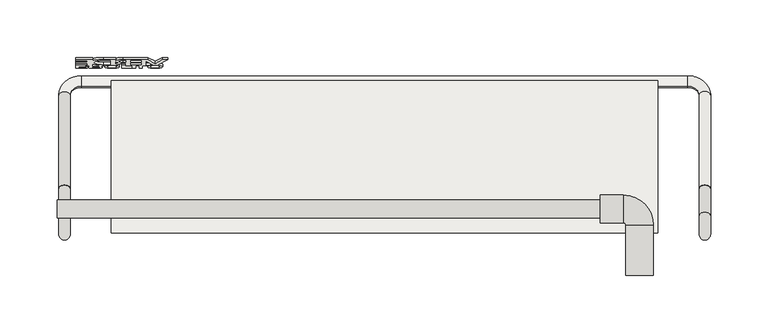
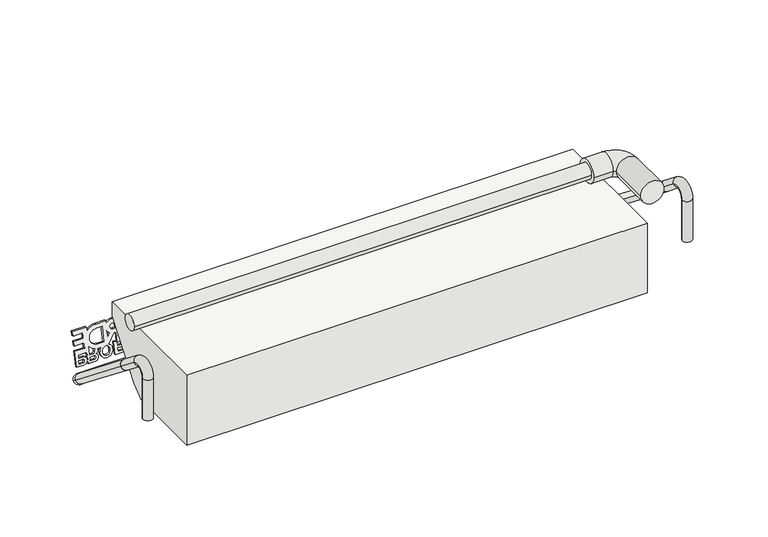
"""IFC4 building model written with IfcOpenShell, lengths in millimetres: covering geometry, panel VP Modulo prova ultima texture : panel VP Modulo prova ultima texture."""

from ifc_helpers import new_model, si_unit, point, frame, frame_2d, origin, place, context, project, spatial, polyline, circle_curve, ellipse_curve, trimmed, segment, composite_curve, outline, extrude, source, transform, mapped, element, save
from ifc_brep_helpers import plane_surface, cylinder_surface, revolved_surface, advanced_brep


def covering_7d83ccac(model_context):
    return source(origin(), model_context, "Body", "SolidModel", [
        extrude(outline(composite_curve([segment(polyline([(34.7220757, 0.0), (58.7996813, 0.0)]), True, "CONTINUOUS"), segment(trimmed(circle_curve(frame_2d((65.064279, 0.602523)), 6.293506), [point((58.7996813, 0.0))], [point((63.4156115, 6.6762462))], False, "CARTESIAN"), True, "CONTINUOUS"), segment(trimmed(circle_curve(frame_2d((65.6666707, 0.6823428)), 6.4026671), [point((63.4156115, 6.6762462))], [point((68.2653756, -5.1692278))], False, "CARTESIAN"), True, "CONTINUOUS"), segment(trimmed(circle_curve(frame_2d((65.2033193, 0.2002614)), 6.1812298), [point((68.2653756, -5.1692278))], [point((64.2093265, -5.9005239))], False, "CARTESIAN"), True, "CONTINUOUS"), segment(polyline([(64.2093265, -5.9005239), (66.3168222, -11.0476865), (75.8016953, -7.1641235), (76.862281, -9.7544046), (66.3136896, -14.073505), (67.4636632, -16.8820993), (78.0122545, -12.5629989), (79.0728401, -15.1532801), (68.5242488, -19.4723804), (70.7348079, -24.8712559), (61.6931831, -28.5733317), (62.6270622, -30.854156), (73.074875, -33.0832316)]), True, "CONTINUOUS"), segment(trimmed(circle_curve(frame_2d((79.2445531, -34.0648779)), 6.247284), [point((73.074875, -33.0832316))], [point((77.6263487, -28.0308102))], False, "CARTESIAN"), True, "CONTINUOUS"), segment(trimmed(circle_curve(frame_2d((79.8774079, -34.0247137)), 6.4026671), [point((77.6263487, -28.0308102))], [point((82.4790997, -39.8749568))], False, "CARTESIAN"), True, "CONTINUOUS"), segment(trimmed(circle_curve(frame_2d((79.4067187, -34.4842118)), 6.2048092), [point((82.4790997, -39.8749568))], [point((77.0112197, -40.2079555))], False, "CARTESIAN"), True, "CONTINUOUS"), segment(polyline([(77.0112197, -40.2079555), (78.1993614, -43.1097685)]), True, "CONTINUOUS"), segment(trimmed(circle_curve(frame_2d((66.5130173, -47.6019204)), 12.5199867), [point((78.1993614, -43.1097685))], [point((78.4709527, -43.8927629))], False, "CARTESIAN"), True, "CONTINUOUS"), segment(polyline([(78.4709527, -43.8927629), (79.5384705, -43.4513168)]), True, "CONTINUOUS"), segment(trimmed(circle_curve(frame_2d((81.1236564, -46.5289179)), 3.4618554), [point((79.5384705, -43.4513168))], [point((83.2640667, -43.8080567))], False, "CARTESIAN"), True, "CONTINUOUS"), segment(trimmed(circle_curve(frame_2d((86.9930545, -44.5041076)), 3.7933939), [point((83.2640667, -43.8080567))], [point((90.5427254, -43.1663205))], False, "CARTESIAN"), True, "CONTINUOUS"), segment(polyline([(90.5427254, -43.1663205), (93.2835774, -49.8603365), (82.734986, -54.1794369), (86.0955187, -62.3869066), (89.2825225, -61.0819941), (87.602256, -56.9782588)]), True, "CONTINUOUS"), segment(trimmed(circle_curve(frame_2d((91.2496311, -55.4763574)), 3.9444966), [point((87.602256, -56.9782588))], [point((87.6394876, -53.8870441))], False, "CARTESIAN"), True, "CONTINUOUS"), segment(trimmed(circle_curve(frame_2d((91.0795377, -55.4029609)), 3.7592483), [point((87.6394876, -53.8870441))], [point((89.8068056, -51.865716))], False, "CARTESIAN"), True, "CONTINUOUS"), segment(trimmed(circle_curve(frame_2d((91.3826275, -55.3791794)), 3.8506675), [point((89.8068056, -51.865716))], [point((94.9638437, -53.9640714))], False, "CARTESIAN"), True, "CONTINUOUS"), segment(polyline([(94.9638437, -53.9640714), (97.7046956, -60.6580874), (83.1186526, -66.6303146), (79.3291227, -57.3750995), (74.3249247, -59.4240587), (78.1144546, -68.6792738), (74.0770029, -70.3324006), (70.287473, -61.0771855), (65.283275, -63.1261447), (69.0728049, -72.3813598), (65.0353532, -74.0344866), (59.5536494, -60.6464546), (63.573194, -59.0006598)]), True, "CONTINUOUS"), segment(trimmed(circle_curve(frame_2d((67.4307017, -47.2531671)), 12.364625), [point((63.573194, -59.0006598))], [point((55.9786181, -51.9151122))], False, "CARTESIAN"), True, "CONTINUOUS"), segment(polyline([(55.9786181, -51.9151122), (51.9745895, -42.1360245), (54.8949193, -40.940301)]), True, "CONTINUOUS"), segment(trimmed(circle_curve(frame_2d((56.8950263, -33.2916254)), 7.9058629), [point((54.8949193, -40.940301))], [point((49.6285765, -36.4063284))], False, "CARTESIAN"), True, "CONTINUOUS"), segment(polyline([(49.6285765, -36.4063284), (41.306864, -16.0821088), (53.1289126, -4.4511801), (36.5446028, -4.4511801), (34.7220757, 0.0)]), True, "CONTINUOUS")], self_intersect=False), holes=[composite_curve([segment(polyline([(91.3698144, -60.2273564), (94.5568181, -58.9224439), (93.0429627, -55.2251363)]), True, "CONTINUOUS"), segment(trimmed(circle_curve(frame_2d((91.4494607, -55.8775926)), 1.7219023), [point((93.0429627, -55.2251363))], [point((89.8559589, -56.5300488))], True, "CARTESIAN"), True, "CONTINUOUS"), segment(polyline([(89.8559589, -56.5300488), (91.3698144, -60.2273564)]), True, "CONTINUOUS")], self_intersect=False), composite_curve([segment(polyline([(77.6536646, -53.2354383), (84.8614042, -50.2842432), (83.4804082, -46.9114199)]), True, "CONTINUOUS"), segment(trimmed(circle_curve(frame_2d((82.0055188, -47.9798171)), 1.8212006), [point((83.4804082, -46.9114199))], [point((81.4459172, -46.2467223))], True, "CARTESIAN"), True, "CONTINUOUS"), segment(polyline([(81.4459172, -46.2467223), (79.005401, -46.7813864)]), True, "CONTINUOUS"), segment(trimmed(circle_curve(frame_2d((66.800009, -47.5936694)), 12.2323913), [point((79.005401, -46.7813864))], [point((77.6536646, -53.2354383))], False, "CARTESIAN"), True, "CONTINUOUS")], self_intersect=False), composite_curve([segment(polyline([(80.0469884, -37.8463889), (81.818283, -37.1211357)]), True, "CONTINUOUS"), segment(trimmed(circle_curve(frame_2d((80.3714598, -33.8224141)), 3.6020635), [point((81.818283, -37.1211357))], [point((79.0874462, -30.4569765))], True, "CARTESIAN"), True, "CONTINUOUS"), segment(polyline([(79.0874462, -30.4569765), (77.318043, -31.1814552)]), True, "CONTINUOUS"), segment(trimmed(circle_curve(frame_2d((78.7640582, -34.4805346)), 3.6020668), [point((77.318043, -31.1814552))], [point((80.0469884, -37.8463889))], True, "CARTESIAN"), True, "CONTINUOUS")], self_intersect=False), composite_curve([segment(polyline([(64.8767089, 4.25008), (63.1073057, 3.5256013)]), True, "CONTINUOUS"), segment(trimmed(circle_curve(frame_2d((64.5533209, 0.2265218)), 3.6020668), [point((63.1073057, 3.5256013))], [point((65.8362511, -3.1393325))], True, "CARTESIAN"), True, "CONTINUOUS"), segment(polyline([(65.8362511, -3.1393325), (67.6075457, -2.4140793)]), True, "CONTINUOUS"), segment(trimmed(circle_curve(frame_2d((66.1607227, 0.8846423)), 3.6020635), [point((67.6075457, -2.4140793))], [point((64.8767089, 4.25008))], True, "CARTESIAN"), True, "CONTINUOUS")], self_intersect=False), composite_curve([segment(polyline([(49.3862172, -14.3776132), (62.966359, -8.8172503), (61.7031824, -5.7321785), (62.543491, -5.3881158)]), True, "CONTINUOUS"), segment(trimmed(circle_curve(frame_2d((65.2914897, 0.489271)), 6.4880792), [point((62.543491, -5.3881158))], [point((60.2929854, -3.647168))], False, "CARTESIAN"), True, "CONTINUOUS"), segment(polyline([(60.2929854, -3.647168), (49.3862172, -14.3776132)]), True, "CONTINUOUS")], self_intersect=False), polyline([(47.5988019, -19.9351412), (50.9593346, -28.1426109), (55.9635327, -26.0936517), (52.603, -17.8861819), (47.5988019, -19.9351412)]), polyline([(60.0009843, -24.4405249), (65.0051824, -22.3915657), (61.6446497, -14.1840959), (56.6404516, -16.2330552), (60.0009843, -24.4405249)]), composite_curve([segment(polyline([(52.6514049, -32.2754703), (53.692025, -34.8169896)]), True, "CONTINUOUS"), segment(trimmed(circle_curve(frame_2d((56.226554, -33.8697215)), 2.7057631), [point((53.692025, -34.8169896))], [point((58.6823171, -32.7337722))], True, "CARTESIAN"), True, "CONTINUOUS"), segment(polyline([(58.6823171, -32.7337722), (57.6557065, -30.2264687), (52.6514049, -32.2754703)]), True, "CONTINUOUS")], self_intersect=False), composite_curve([segment(polyline([(62.0018449, -38.0303841), (66.4600603, -36.2049764), (63.0935891, -35.4866797)]), True, "CONTINUOUS"), segment(trimmed(circle_curve(frame_2d((53.8245829, -33.01461)), 9.5929977), [point((63.0935891, -35.4866797))], [point((62.0018449, -38.0303841))], False, "CARTESIAN"), True, "CONTINUOUS")], self_intersect=False), composite_curve([segment(polyline([(57.7042151, -44.6157146), (60.0160697, -50.2619853)]), True, "CONTINUOUS"), segment(trimmed(circle_curve(frame_2d((67.1061304, -47.5504315)), 7.5908816), [point((60.0160697, -50.2619853))], [point((74.0619175, -44.5109401))], True, "CARTESIAN"), True, "CONTINUOUS"), segment(polyline([(74.0619175, -44.5109401), (71.7500629, -38.8646693), (57.7042151, -44.6157146)]), True, "CONTINUOUS")], self_intersect=False), composite_curve([segment(polyline([(86.9486961, -49.4296056), (90.1356999, -48.124693), (88.6218444, -44.4273854)]), True, "CONTINUOUS"), segment(trimmed(circle_curve(frame_2d((87.0283425, -45.0798417)), 1.7219023), [point((88.6218444, -44.4273854))], [point((85.4348406, -45.7322979))], True, "CARTESIAN"), True, "CONTINUOUS"), segment(polyline([(85.4348406, -45.7322979), (86.9486961, -49.4296056)]), True, "CONTINUOUS")], self_intersect=False)]), frame((-175.3240629, 210.3688908, 352.3284791), z_axis=(0.0, -0.9769248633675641, 0.21358326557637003), x_axis=(-0.3789159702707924, -0.19765659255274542, -0.9040766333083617)), (0.0, 0.0, 1.0), 2.0),
        extrude(outline(polyline([(76.2116946, -23.2064962), (79.3986984, -21.9015837), (77.1881392, -16.5027082), (79.2754311, -15.6480706), (82.5465758, -23.6372272), (70.9744162, -28.3754256), (69.9138306, -25.7851445), (74.1244027, -24.0611338), (71.9138436, -18.6622584), (74.0011355, -17.8076208), (76.2116946, -23.2064962)])), frame((-175.3240629, 210.3688908, 352.3284791), z_axis=(0.0, -0.9769248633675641, 0.21358326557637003), x_axis=(-0.3789159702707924, -0.19765659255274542, -0.9040766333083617)), (0.0, 0.0, 1.0), 2.0),
        advanced_brep(
        [(-284.4808119, 63.5015434, 416.038463), (-284.4808119, 79.5015434, 416.038463), (187.7808119, 63.5015434, 416.038463), (187.7808119, 79.5015434, 416.038463), (187.7808119, 59.5015434, 416.038463), (187.7808119, 83.5015434, 416.038463), (207.7808119, 59.5015434, 416.038463), (207.7808119, 83.5015434, 416.038463), (209.7808119, 57.5015434, 416.038463), (233.7808119, 57.5015434, 416.038463), (209.7808119, 13.5015434, 416.038463), (233.7808119, 13.5015434, 416.038463)],
        [
            (0, 1, circle_curve(frame((-284.4808119, 71.5015434, 416.038463), z_axis=(-1.0, 0.0, 0.0), x_axis=(0.0, 1.0, 0.0)), 8.0)),
            (1, 0, circle_curve(frame((-284.4808119, 71.5015434, 416.038463), z_axis=(-1.0, 0.0, 0.0), x_axis=(0.0, 1.0, 0.0)), 8.0)),
            (0, 2),
            (2, 3, circle_curve(frame((187.7808119, 71.5015434, 416.038463), z_axis=(-1.0, 0.0, 0.0), x_axis=(0.0, 1.0, 0.0)), 8.0)),
            (3, 1),
            (3, 2, circle_curve(frame((187.7808119, 71.5015434, 416.038463), z_axis=(-1.0, 0.0, 0.0), x_axis=(0.0, 1.0, 0.0)), 8.0)),
            (4, 5, circle_curve(frame((187.7808119, 71.5015434, 416.038463), z_axis=(-1.0, 0.0, 0.0), x_axis=(0.0, 1.0, 0.0)), 12.0)),
            (5, 4, circle_curve(frame((187.7808119, 71.5015434, 416.038463), z_axis=(-1.0, 0.0, 0.0), x_axis=(0.0, 1.0, 0.0)), 12.0)),
            (4, 6),
            (6, 7, circle_curve(frame((207.7808119, 71.5015434, 416.038463), z_axis=(-1.0, 0.0, 0.0), x_axis=(0.0, 1.0, 0.0)), 12.0)),
            (7, 5),
            (7, 6, circle_curve(frame((207.7808119, 71.5015434, 416.038463), z_axis=(-1.0, 0.0, 0.0), x_axis=(0.0, 1.0, 0.0)), 12.0)),
            (6, 8, circle_curve(frame((207.7808119, 57.5015434, 416.038463), z_axis=(0.0, 0.0, -1.0), x_axis=(0.0, 1.0, 0.0)), 2.0)),
            (8, 9, circle_curve(frame((221.7808119, 57.5015434, 416.038463), z_axis=(0.0, 1.0, 0.0), x_axis=(1.0, 0.0, 0.0)), 12.0)),
            (9, 7, circle_curve(frame((207.7808119, 57.5015434, 416.038463), z_axis=(0.0, 0.0, 1.0), x_axis=(0.0, 1.0, 0.0)), 26.0)),
            (9, 8, circle_curve(frame((221.7808119, 57.5015434, 416.038463), z_axis=(0.0, 1.0, 0.0), x_axis=(1.0, 0.0, 0.0)), 12.0)),
            (10, 11, circle_curve(frame((221.7808119, 13.5015434, 416.038463), z_axis=(0.0, -1.0, 0.0), x_axis=(1.0, 0.0, 0.0)), 12.0)),
            (11, 10, circle_curve(frame((221.7808119, 13.5015434, 416.038463), z_axis=(0.0, -1.0, 0.0), x_axis=(1.0, 0.0, 0.0)), 12.0)),
            (8, 10),
            (11, 9),
        ],
        [
            plane_surface(frame((-284.4808119, 63.5015434, 416.038463), z_axis=(-1.0, 0.0, 0.0), x_axis=(0.0, 0.0, 1.0))),
            cylinder_surface(frame((-284.4808119, 71.5015434, 416.038463), z_axis=(-1.0, 0.0, 0.0), x_axis=(0.0, 1.0, 0.0)), 8.0),
            plane_surface(frame((187.7808119, 63.5015434, 416.038463), z_axis=(-1.0, 0.0, 0.0), x_axis=(0.0, 0.0, 1.0))),
            cylinder_surface(frame((187.7808119, 71.5015434, 416.038463), z_axis=(-1.0, 0.0, 0.0), x_axis=(0.0, 1.0, 0.0)), 12.0),
            revolved_surface(trimmed(ellipse_curve(frame((207.7808119, 71.5015434, 416.038463), z_axis=(-1.0, 0.0, 0.0), x_axis=(0.0, 1.0, 0.0)), 12.0, 12.0), [point((207.7808119, 59.5015434, 416.038463))], [point((207.7808119, 83.5015434, 416.038463))], True, "CARTESIAN"), (207.7808119, 57.5015434, 416.038463), (0.0, 0.0, -1.0)),
            revolved_surface(trimmed(ellipse_curve(frame((207.7808119, 71.5015434, 416.038463), z_axis=(-1.0, 0.0, 0.0), x_axis=(0.0, 1.0, 0.0)), 12.0, 12.0), [point((207.7808119, 83.5015434, 416.038463))], [point((207.7808119, 59.5015434, 416.038463))], True, "CARTESIAN"), (207.7808119, 57.5015434, 416.038463), (0.0, 0.0, -1.0)),
            plane_surface(frame((213.7808119, 13.5015434, 416.038463), z_axis=(0.0, -1.0, 0.0), x_axis=(0.0, 0.0, 1.0))),
            cylinder_surface(frame((221.7808119, 57.5015434, 416.038463), z_axis=(0.0, 1.0, 0.0), x_axis=(1.0, 0.0, 0.0)), 12.0),
        ],
        [
            (0, [[1, 2]]),
            (1, [[-1, 3, 4, 5]]),
            (1, [[-2, -5, 6, -3]]),
            (2, [[7, 8], [-4, -6]]),
            (3, [[-7, 9, 10, 11]]),
            (3, [[-8, -11, 12, -9]]),
            (4, [[-10, 13, 14, 15]]),
            (5, [[-12, -15, 16, -13]]),
            (6, [[17, 18]]),
            (7, [[-14, 19, -18, 20]]),
            (7, [[-16, -20, -17, -19]]),
        ],
    ),
        advanced_brep(
        [(283.4808119, 89.2250572, 356.8404048), (273.4808119, 89.2251428, 356.8405128), (283.4808119, 170.6491384, 292.3205598), (273.4808119, 170.6492239, 292.3206678), (263.4808119, 178.4869122, 286.1101411), (263.4808119, 186.324515, 279.8995064), (-263.4808119, 186.324515, 279.8995064), (-263.4808119, 178.4869122, 286.1101411), (-273.4808119, 170.6492239, 292.3206678), (-283.4808119, 170.6491384, 292.3205598), (-283.4808119, 89.2250494, 356.840411), (-273.4808119, 89.225135, 356.840519)],
        [
            (0, 1, circle_curve(frame((278.4808119, 89.2250572, 356.8404048), z_axis=(0.0, -0.7837688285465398, 0.6210526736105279), x_axis=(1.0, 0.0, 0.0)), 5.0)),
            (1, 0, circle_curve(frame((278.4808119, 89.2250572, 356.8404048), z_axis=(0.0, -0.7837688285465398, 0.6210526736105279), x_axis=(1.0, 0.0, 0.0)), 5.0)),
            (0, 2),
            (2, 3, circle_curve(frame((278.4808119, 170.6491384, 292.3205598), z_axis=(0.0, -0.7837688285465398, 0.6210526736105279), x_axis=(1.0, 0.0, 0.0)), 5.0)),
            (3, 1),
            (3, 2, circle_curve(frame((278.4808119, 170.6491384, 292.3205598), z_axis=(0.0, -0.7837688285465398, 0.6210526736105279), x_axis=(1.0, 0.0, 0.0)), 5.0)),
            (4, 3, circle_curve(frame((263.4808119, 170.6492239, 292.3206678), z_axis=(0.0, -0.6210526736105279, -0.7837688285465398), x_axis=(1.0, 0.0, 0.0)), 10.0)),
            (2, 5, circle_curve(frame((263.4808119, 170.6491384, 292.3205598), z_axis=(0.0, 0.6210526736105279, 0.7837688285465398), x_axis=(1.0, 0.0, 0.0)), 20.0)),
            (5, 4, circle_curve(frame((263.4808119, 182.4056708, 283.0047697), z_axis=(1.0, 0.0, 0.0), x_axis=(0.0, 0.7837688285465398, -0.6210526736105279)), 5.0)),
            (4, 5, circle_curve(frame((263.4808119, 182.4056708, 283.0047697), z_axis=(1.0, 0.0, 0.0), x_axis=(0.0, 0.7837688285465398, -0.6210526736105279)), 5.0)),
            (5, 6),
            (6, 7, circle_curve(frame((-263.4808119, 182.4056708, 283.0047697), z_axis=(1.0, 0.0, 0.0), x_axis=(0.0, 0.7837688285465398, -0.6210526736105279)), 5.0)),
            (7, 4),
            (7, 6, circle_curve(frame((-263.4808119, 182.4056708, 283.0047697), z_axis=(1.0, 0.0, 0.0), x_axis=(0.0, 0.7837688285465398, -0.6210526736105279)), 5.0)),
            (8, 7, circle_curve(frame((-263.4808119, 170.6492239, 292.3206678), z_axis=(0.0, -0.6210526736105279, -0.7837688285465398), x_axis=(0.0, 0.7837688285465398, -0.6210526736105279)), 10.0)),
            (6, 9, circle_curve(frame((-263.4808119, 170.6491384, 292.3205598), z_axis=(0.0, 0.6210526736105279, 0.7837688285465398), x_axis=(0.0, 0.7837688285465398, -0.6210526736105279)), 20.0)),
            (9, 8, circle_curve(frame((-278.4808119, 170.6491384, 292.3205598), z_axis=(0.0, 0.7837688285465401, -0.6210526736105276), x_axis=(-1.0000000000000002, 0.0, 0.0)), 5.0)),
            (8, 9, circle_curve(frame((-278.4808119, 170.6491384, 292.3205598), z_axis=(0.0, 0.7837688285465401, -0.6210526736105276), x_axis=(-1.0000000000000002, 0.0, 0.0)), 5.0)),
            (10, 11, circle_curve(frame((-278.4808119, 89.2250494, 356.840411), z_axis=(0.0, -0.7837688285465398, 0.6210526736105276), x_axis=(-1.0, 0.0, 0.0)), 5.0)),
            (11, 10, circle_curve(frame((-278.4808119, 89.2250494, 356.840411), z_axis=(0.0, -0.7837688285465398, 0.6210526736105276), x_axis=(-1.0, 0.0, 0.0)), 5.0)),
            (9, 10),
            (11, 8),
        ],
        [
            plane_surface(frame((273.4808119, 92.3304015, 360.7593511), z_axis=(0.0, -0.7837688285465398, 0.6210526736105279), x_axis=(0.0, -0.6210526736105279, -0.7837688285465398))),
            cylinder_surface(frame((278.4808119, 89.2250572, 356.8404048), z_axis=(0.0, -0.7837688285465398, 0.6210526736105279), x_axis=(1.0, 0.0, 0.0)), 5.0),
            revolved_surface(trimmed(ellipse_curve(frame((278.4808119, 170.6491384, 292.3205598), z_axis=(0.0, -0.7837688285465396, 0.6210526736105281), x_axis=(1.0, 0.0, 0.0)), 5.0, 5.0), [point((283.4808119, 170.6491384, 292.3205598))], [point((273.4808119, 170.6492239, 292.3206678))], True, "CARTESIAN"), (263.4808119, 173.7544827, 296.2395061), (0.0, 0.6210526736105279, 0.7837688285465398)),
            revolved_surface(trimmed(ellipse_curve(frame((278.4808119, 170.6491384, 292.3205598), z_axis=(0.0, -0.7837688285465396, 0.6210526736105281), x_axis=(1.0, 0.0, 0.0)), 5.0, 5.0), [point((273.4808119, 170.6492239, 292.3206678))], [point((283.4808119, 170.6491384, 292.3205598))], True, "CARTESIAN"), (263.4808119, 173.7544827, 296.2395061), (0.0, 0.6210526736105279, 0.7837688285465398)),
            cylinder_surface(frame((263.4808119, 182.4056708, 283.0047697), z_axis=(1.0000000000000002, 0.0, 0.0), x_axis=(0.0, 0.7837688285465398, -0.6210526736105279)), 5.0),
            revolved_surface(trimmed(ellipse_curve(frame((-263.4808119, 182.4056708, 283.0047697), z_axis=(1.0000000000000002, 0.0, 0.0), x_axis=(0.0, 0.7837688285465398, -0.6210526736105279)), 5.0, 5.0), [point((-263.4808119, 186.324515, 279.8995064))], [point((-263.4808119, 178.4869122, 286.1101411))], True, "CARTESIAN"), (-263.4808119, 173.7544827, 296.2395061), (0.0, 0.6210526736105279, 0.7837688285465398)),
            revolved_surface(trimmed(ellipse_curve(frame((-263.4808119, 182.4056708, 283.0047697), z_axis=(1.0000000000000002, 0.0, 0.0), x_axis=(0.0, 0.7837688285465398, -0.6210526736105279)), 5.0, 5.0), [point((-263.4808119, 178.4869122, 286.1101411))], [point((-263.4808119, 186.324515, 279.8995064))], True, "CARTESIAN"), (-263.4808119, 173.7544827, 296.2395061), (0.0, 0.6210526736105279, 0.7837688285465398)),
            plane_surface(frame((-273.4808119, 92.3303937, 360.7593573), z_axis=(0.0, -0.7837688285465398, 0.6210526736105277), x_axis=(0.0, -0.6210526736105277, -0.7837688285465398))),
            cylinder_surface(frame((-278.4808119, 170.6491384, 292.3205598), z_axis=(0.0, 0.7837688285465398, -0.6210526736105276), x_axis=(-1.0, 0.0, 0.0)), 5.0),
        ],
        [
            (0, [[1, 2]]),
            (1, [[-1, 3, 4, 5]]),
            (1, [[-2, -5, 6, -3]]),
            (2, [[7, -4, 8, 9]]),
            (3, [[-8, -6, -7, 10]]),
            (4, [[-9, 11, 12, 13]]),
            (4, [[-10, -13, 14, -11]]),
            (5, [[15, -12, 16, 17]]),
            (6, [[-16, -14, -15, 18]]),
            (7, [[19, 20]]),
            (8, [[-17, 21, -20, 22]]),
            (8, [[-18, -22, -19, -21]]),
        ],
    ),
        advanced_brep(
        [(-273.4808119, 89.225135, 356.840519), (-283.4808119, 89.225135, 356.840519), (-283.4808119, 65.7120701, 375.4720992), (-273.4808119, 65.7120701, 375.4720992), (-273.4808119, 49.5015434, 367.6344109), (-283.4808119, 49.5015434, 367.6344109), (-273.4808119, 49.5015434, 323.3322656), (-283.4808119, 49.5015434, 323.3322656)],
        [
            (0, 1, circle_curve(frame((-278.4808119, 89.225135, 356.840519), z_axis=(0.0, 0.7837688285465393, -0.6210526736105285), x_axis=(-1.0, 0.0, 0.0)), 5.0)),
            (1, 0, circle_curve(frame((-278.4808119, 89.225135, 356.840519), z_axis=(0.0, 0.7837688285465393, -0.6210526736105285), x_axis=(-1.0, 0.0, 0.0)), 5.0)),
            (1, 2),
            (2, 3, circle_curve(frame((-278.4808119, 65.7120701, 375.4720992), z_axis=(0.0, 0.7837688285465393, -0.6210526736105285), x_axis=(-1.0, 0.0, 0.0)), 5.0)),
            (3, 0),
            (3, 2, circle_curve(frame((-278.4808119, 65.7120701, 375.4720992), z_axis=(0.0, 0.7837688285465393, -0.6210526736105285), x_axis=(-1.0, 0.0, 0.0)), 5.0)),
            (4, 3, circle_curve(frame((-273.4808119, 59.5015434, 367.6344109), z_axis=(-1.0, 0.0, 0.0), x_axis=(0.0, 0.6210526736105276, 0.78376882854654)), 10.0)),
            (2, 5, circle_curve(frame((-283.4808119, 59.5015434, 367.6344109), z_axis=(1.0, 0.0, 0.0), x_axis=(0.0, 0.6210526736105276, 0.78376882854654)), 10.0)),
            (5, 4, circle_curve(frame((-278.4808119, 49.5015434, 367.6344109), z_axis=(0.0, 0.0, 1.0), x_axis=(-1.0, 0.0, 0.0)), 5.0)),
            (4, 5, circle_curve(frame((-278.4808119, 49.5015434, 367.6344109), z_axis=(0.0, 0.0, 1.0), x_axis=(-1.0, 0.0, 0.0)), 5.0)),
            (6, 7, circle_curve(frame((-278.4808119, 49.5015434, 323.3322656), z_axis=(0.0, 0.0, -1.0), x_axis=(-1.0, 0.0, 0.0)), 5.0)),
            (7, 6, circle_curve(frame((-278.4808119, 49.5015434, 323.3322656), z_axis=(0.0, 0.0, -1.0), x_axis=(-1.0, 0.0, 0.0)), 5.0)),
            (5, 7),
            (6, 4),
        ],
        [
            plane_surface(frame((-273.4808119, 89.225135, 356.840519), z_axis=(0.0, 0.7837688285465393, -0.6210526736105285), x_axis=(-1.0, 0.0, 0.0))),
            cylinder_surface(frame((-278.4808119, 89.225135, 356.840519), z_axis=(0.0, 0.7837688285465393, -0.6210526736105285), x_axis=(-1.0, 0.0, 0.0)), 5.0),
            revolved_surface(trimmed(ellipse_curve(frame((-278.4808119, 65.7120701, 375.4720992), z_axis=(0.0, 0.78376882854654, -0.6210526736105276), x_axis=(-1.0, 0.0, 0.0)), 5.0, 5.0), [point((-283.4808119, 65.7120701, 375.4720992))], [point((-273.4808119, 65.7120701, 375.4720992))], True, "CARTESIAN"), (-273.4808119, 59.5015434, 367.6344109), (1.0, 0.0, 0.0)),
            revolved_surface(trimmed(ellipse_curve(frame((-278.4808119, 65.7120701, 375.4720992), z_axis=(0.0, 0.78376882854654, -0.6210526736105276), x_axis=(-1.0, 0.0, 0.0)), 5.0, 5.0), [point((-273.4808119, 65.7120701, 375.4720992))], [point((-283.4808119, 65.7120701, 375.4720992))], True, "CARTESIAN"), (-273.4808119, 59.5015434, 367.6344109), (1.0, 0.0, 0.0)),
            plane_surface(frame((-273.4808119, 49.5015434, 323.3322656), z_axis=(0.0, 0.0, -1.0), x_axis=(-1.0, 0.0, 0.0))),
            cylinder_surface(frame((-278.4808119, 49.5015434, 367.6344109), z_axis=(0.0, 0.0, 1.0), x_axis=(-1.0, 0.0, 0.0)), 5.0),
        ],
        [
            (0, [[1, 2]]),
            (1, [[-2, 3, 4, 5]]),
            (1, [[-1, -5, 6, -3]]),
            (2, [[7, -4, 8, 9]]),
            (3, [[-8, -6, -7, 10]]),
            (4, [[11, 12]]),
            (5, [[-9, 13, -11, 14]]),
            (5, [[-10, -14, -12, -13]]),
        ],
    ),
        advanced_brep(
        [(273.4808119, 89.2251242, 356.8404893), (283.4808119, 89.2251242, 356.8404893), (273.4808119, 65.7120779, 375.472093), (283.4808119, 65.7120779, 375.472093), (283.4808119, 49.5015434, 367.6344109), (273.4808119, 49.5015434, 367.6344109), (273.4808119, 49.5015434, 323.3322656), (283.4808119, 49.5015434, 323.3322656)],
        [
            (0, 1, circle_curve(frame((278.4808119, 89.2251242, 356.8404893), z_axis=(0.0, 0.7837682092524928, -0.621053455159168), x_axis=(1.0, 0.0, 0.0)), 5.0)),
            (1, 0, circle_curve(frame((278.4808119, 89.2251242, 356.8404893), z_axis=(0.0, 0.7837682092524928, -0.621053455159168), x_axis=(1.0, 0.0, 0.0)), 5.0)),
            (0, 2),
            (2, 3, circle_curve(frame((278.4808119, 65.7120779, 375.472093), z_axis=(0.0, 0.7837682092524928, -0.621053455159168), x_axis=(1.0, 0.0, 0.0)), 5.0)),
            (3, 1),
            (3, 2, circle_curve(frame((278.4808119, 65.7120779, 375.472093), z_axis=(0.0, 0.7837682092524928, -0.621053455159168), x_axis=(1.0, 0.0, 0.0)), 5.0)),
            (4, 3, circle_curve(frame((283.4808119, 59.5015434, 367.6344109), z_axis=(-1.0, 0.0, 0.0), x_axis=(0.0, 0.6210534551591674, 0.7837682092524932)), 10.0)),
            (2, 5, circle_curve(frame((273.4808119, 59.5015434, 367.6344109), z_axis=(1.0, 0.0, 0.0), x_axis=(0.0, 0.6210534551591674, 0.7837682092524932)), 10.0)),
            (5, 4, circle_curve(frame((278.4808119, 49.5015434, 367.6344109), z_axis=(0.0, 0.0, 1.0), x_axis=(1.0, 0.0, 0.0)), 5.0)),
            (4, 5, circle_curve(frame((278.4808119, 49.5015434, 367.6344109), z_axis=(0.0, 0.0, 1.0), x_axis=(1.0, 0.0, 0.0)), 5.0)),
            (6, 7, circle_curve(frame((278.4808119, 49.5015434, 323.3322656), z_axis=(0.0, 0.0, -1.0), x_axis=(1.0, 0.0, 0.0)), 5.0)),
            (7, 6, circle_curve(frame((278.4808119, 49.5015434, 323.3322656), z_axis=(0.0, 0.0, -1.0), x_axis=(1.0, 0.0, 0.0)), 5.0)),
            (5, 6),
            (7, 4),
        ],
        [
            plane_surface(frame((273.4808119, 89.2251242, 356.8404893), z_axis=(0.0, 0.7837682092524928, -0.621053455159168), x_axis=(1.0, 0.0, 0.0))),
            cylinder_surface(frame((278.4808119, 89.2251242, 356.8404893), z_axis=(0.0, 0.7837682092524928, -0.621053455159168), x_axis=(1.0, 0.0, 0.0)), 5.0),
            revolved_surface(trimmed(ellipse_curve(frame((278.4808119, 65.7120779, 375.472093), z_axis=(0.0, 0.7837682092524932, -0.6210534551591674), x_axis=(1.0, 0.0, 0.0)), 5.0, 5.0), [point((273.4808119, 65.7120779, 375.472093))], [point((283.4808119, 65.7120779, 375.472093))], True, "CARTESIAN"), (273.4808119, 59.5015434, 367.6344109), (1.0, 0.0, 0.0)),
            revolved_surface(trimmed(ellipse_curve(frame((278.4808119, 65.7120779, 375.472093), z_axis=(0.0, 0.7837682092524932, -0.6210534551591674), x_axis=(1.0, 0.0, 0.0)), 5.0, 5.0), [point((283.4808119, 65.7120779, 375.472093))], [point((273.4808119, 65.7120779, 375.472093))], True, "CARTESIAN"), (273.4808119, 59.5015434, 367.6344109), (1.0, 0.0, 0.0)),
            plane_surface(frame((273.4808119, 49.5015434, 323.3322656), z_axis=(0.0, 0.0, -1.0), x_axis=(1.0, 0.0, 0.0))),
            cylinder_surface(frame((278.4808119, 49.5015434, 367.6344109), z_axis=(0.0, 0.0, 1.0), x_axis=(1.0, 0.0, 0.0)), 5.0),
        ],
        [
            (0, [[1, 2]]),
            (1, [[-1, 3, 4, 5]]),
            (1, [[-2, -5, 6, -3]]),
            (2, [[7, -4, 8, 9]]),
            (3, [[-8, -6, -7, 10]]),
            (4, [[11, 12]]),
            (5, [[-9, 13, -12, 14]]),
            (5, [[-10, -14, -11, -13]]),
        ],
    ),
        extrude(outline(polyline([(132.1625373, 278.3787994), (50.5015434, 278.3787994), (50.5015434, 354.3787994), (183.4941844, 354.3787994), (183.4941844, 338.7120762), (143.8388149, 288.666981), (132.1625373, 278.3787994)])), frame((-237.7808119, 0.0, 0.0), z_axis=(1.0, 0.0, 0.0), x_axis=(0.0, 1.0, 0.0)), (0.0, 0.0, 1.0), 475.5616238),
    ])


if __name__ == "__main__":
    model = new_model("IFC4")
    model_context = context("Model", 3, world=origin())
    ifc_project = project(units=[si_unit("LENGTHUNIT", "METRE", prefix="MILLI")], contexts=[model_context])
    site = spatial("IfcSite", under=ifc_project)
    building = spatial("IfcBuilding", under=site)
    placement = place(None, origin())
    covering_shape = covering_7d83ccac(model_context)
    element("IfcCovering", 1, ObjectType="panel VP Modulo prova ultima texture : panel VP Modulo prova ultima texture", at=placement, inside=building, context=model_context, shape_type="MappedRepresentation", body=[
        mapped(covering_shape, transform((0.0, 0.0, 0.0), x_axis=(1.0, 0.0, 0.0), y_axis=(0.0, 1.0, 0.0), z_axis=(0.0, 0.0, 1.0))),
    ])
    save(model, "model.ifc")
